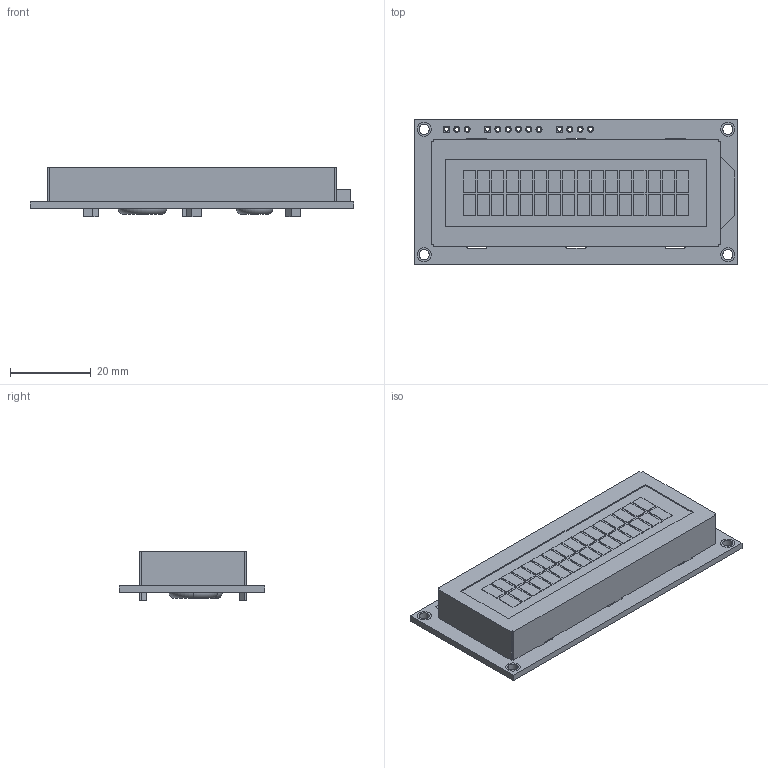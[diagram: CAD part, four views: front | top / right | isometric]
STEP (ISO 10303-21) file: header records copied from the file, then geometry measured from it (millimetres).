
FILE_DESCRIPTION (( 'STEP AP214' ), '1' );
FILE_NAME ('NHD-0216K3Z-FS(RGB)-FBW-V3.STEP', '2017-09-07T14:24:01', ( '' ), ( '' ), 'SwSTEP 2.0', 'SolidWorks 2017', '' );
FILE_SCHEMA (( 'AUTOMOTIVE_DESIGN' ));
Length unit declared in the file: millimetre
Products named in the file (1): NHD-0216K3Z-FS(RGB)-FBW-V3
Bounding box: 80 x 36 x 12.3 mm (x, y, z)
Volume: 20959 mm3; surface area: 8259.9 mm2
Topology: 1 solids, 1 shells, 450 faces, 1122 edges, 738 vertices
Faces by surface type: plane 332, cylinder 114, torus 4
Entity records: 16622 total; most frequent: CARTESIAN_POINT 2311, DIRECTION 2264, ORIENTED_EDGE 2244, EDGE_CURVE 1122, LINE 882, VECTOR 882, VERTEX_POINT 738, AXIS2_PLACEMENT_3D 691
